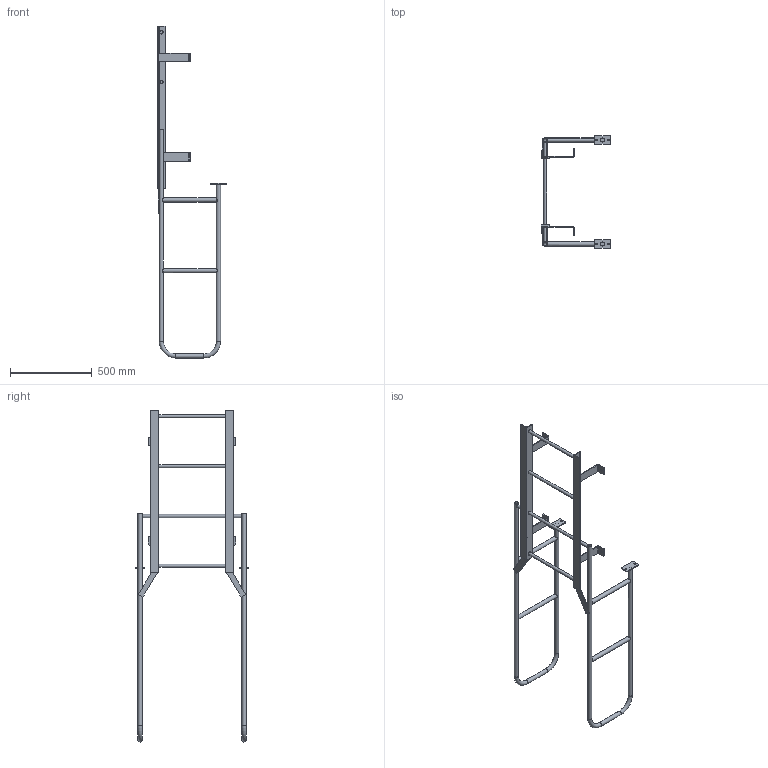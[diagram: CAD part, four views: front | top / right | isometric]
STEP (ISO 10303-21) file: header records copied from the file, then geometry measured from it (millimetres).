
FILE_DESCRIPTION(/* description */ (''),/* implementation_level */ '2;1');
FILE_NAME(/* name */ 'P:\MIKEL & KAREN\3570222 F4W SIMPLIFIED PART .stp',/* time_stamp */ '2018-07-02T15:42:28-04:00',/* author */ ('stephanie'),/* organization */ (''),/* preprocessor_version */ 'ST-DEVELOPER v16.1',/* originating_system */ 'Autodesk Inventor 2016',/* authorisation */ '');
FILE_SCHEMA (('AUTOMOTIVE_DESIGN { 1 0 10303 214 3 1 1 }'));
Length unit declared in the file: centimetre
Products named in the file (1): 3570222 F4W SIMPLIFIED PART 
Bounding box: 425.58 x 685.8 x 2028.83 mm (x, y, z)
Volume: 3016776.7 mm3; surface area: 1675266.5 mm2
Topology: 12 solids, 12 shells, 214 faces, 554 edges, 358 vertices
Faces by surface type: plane 113, cylinder 93, torus 8
Full cylindrical faces by diameter (mm): 10.319 x4, 14.287 x4, 19.05 x4, 22.098 x10, 22.225 x8, 25.4 x10
Entity records: 6851 total; most frequent: CARTESIAN_POINT 1445, DIRECTION 1100, ORIENTED_EDGE 988, EDGE_CURVE 488, AXIS2_PLACEMENT_3D 413, VERTEX_POINT 342, EDGE_LOOP 302, LINE 274
